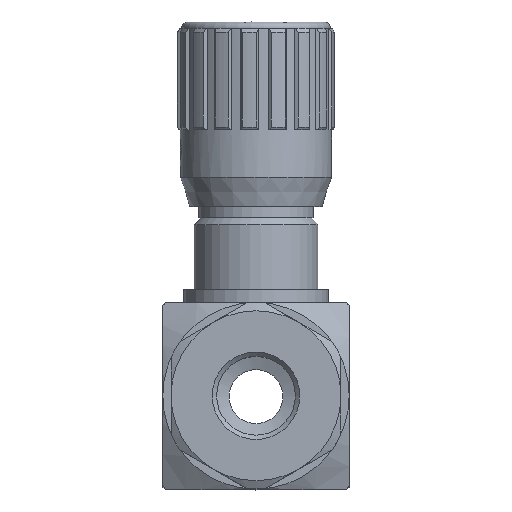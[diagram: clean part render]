
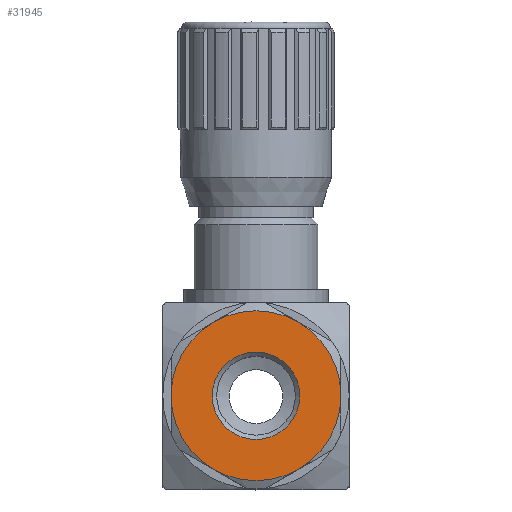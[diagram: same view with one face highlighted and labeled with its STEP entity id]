
A CAD part, top view. The second image highlights one B-rep face of the part: STEP entity #31945.
In plain terms, the highlighted planar face has unit normal (0, 0, 1).
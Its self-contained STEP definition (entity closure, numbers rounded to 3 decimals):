
#426 = ORIENTED_EDGE ( 'NONE', *, *, #13594, .T. ) ;
#453 = EDGE_LOOP ( 'NONE', ( #12377, #426, #28557, #15548, #24080, #14491 ) ) ;
#1048 = CIRCLE ( 'NONE', #31146, 20.5 ) ;
#2996 = CARTESIAN_POINT ( 'NONE',  ( -20.5, 0., 71.25 ) ) ;
#3554 = EDGE_CURVE ( 'NONE', #28560, #23455, #16890, .T. ) ;
#3830 = VERTEX_POINT ( 'NONE', #10437 ) ;
#4820 = DIRECTION ( 'NONE',  ( 0., 0., 1. ) ) ;
#4938 = CARTESIAN_POINT ( 'NONE',  ( 0., 0., 71.25 ) ) ;
#5053 = DIRECTION ( 'NONE',  ( 1., 0., 0. ) ) ;
#5590 = CIRCLE ( 'NONE', #32638, 20.5 ) ;
#6510 = DIRECTION ( 'NONE',  ( 0., 0., 1. ) ) ;
#6844 = CARTESIAN_POINT ( 'NONE',  ( 0., 0., 71.25 ) ) ;
#6953 = DIRECTION ( 'NONE',  ( 1., 0., 0. ) ) ;
#7192 = DIRECTION ( 'NONE',  ( 0., 0., 1. ) ) ;
#7231 = CARTESIAN_POINT ( 'NONE',  ( 0., 0., 71.25 ) ) ;
#7273 = DIRECTION ( 'NONE',  ( 1., 0., 0. ) ) ;
#7579 = AXIS2_PLACEMENT_3D ( 'NONE', #23376, #23262, #23252 ) ;
#8241 = PLANE ( 'NONE',  #29399 ) ;
#8566 = CARTESIAN_POINT ( 'NONE',  ( 0., 0., 71.25 ) ) ;
#8699 = DIRECTION ( 'NONE',  ( 1., 0., 0. ) ) ;
#8826 = DIRECTION ( 'NONE',  ( 0., 0., 1. ) ) ;
#9101 = EDGE_CURVE ( 'NONE', #13235, #10647, #28372, .T. ) ;
#10437 = CARTESIAN_POINT ( 'NONE',  ( 10.25, 17.754, 71.25 ) ) ;
#10647 = VERTEX_POINT ( 'NONE', #14347 ) ;
#12238 = VERTEX_POINT ( 'NONE', #32430 ) ;
#12377 = ORIENTED_EDGE ( 'NONE', *, *, #19775, .T. ) ;
#13235 = VERTEX_POINT ( 'NONE', #2996 ) ;
#13418 = CARTESIAN_POINT ( 'NONE',  ( 0., 0., 71.25 ) ) ;
#13425 = DIRECTION ( 'NONE',  ( 0., 0., 1. ) ) ;
#13503 = DIRECTION ( 'NONE',  ( 1., 0., 0. ) ) ;
#13538 = DIRECTION ( 'NONE',  ( 0., 0., 1. ) ) ;
#13594 = EDGE_CURVE ( 'NONE', #3830, #30518, #1048, .T. ) ;
#14347 = CARTESIAN_POINT ( 'NONE',  ( -10.25, -17.754, 71.25 ) ) ;
#14491 = ORIENTED_EDGE ( 'NONE', *, *, #3554, .T. ) ;
#15548 = ORIENTED_EDGE ( 'NONE', *, *, #9101, .T. ) ;
#16822 = AXIS2_PLACEMENT_3D ( 'NONE', #13418, #13538, #13503 ) ;
#16890 = CIRCLE ( 'NONE', #30231, 20.5 ) ;
#17528 = AXIS2_PLACEMENT_3D ( 'NONE', #6844, #6510, #6953 ) ;
#18291 = EDGE_LOOP ( 'NONE', ( #21268 ) ) ;
#18996 = EDGE_CURVE ( 'NONE', #12238, #12238, #27979, .T. ) ;
#19775 = EDGE_CURVE ( 'NONE', #23455, #3830, #31097, .T. ) ;
#20044 = CARTESIAN_POINT ( 'NONE',  ( 20.5, 0., 71.25 ) ) ;
#21268 = ORIENTED_EDGE ( 'NONE', *, *, #18996, .F. ) ;
#21589 = CARTESIAN_POINT ( 'NONE',  ( 0., 0., 71.25 ) ) ;
#21687 = DIRECTION ( 'NONE',  ( 1., 0., 0. ) ) ;
#21723 = DIRECTION ( 'NONE',  ( 0., 0., 1. ) ) ;
#21816 = FACE_BOUND ( 'NONE', #18291, .T. ) ;
#22389 = CARTESIAN_POINT ( 'NONE',  ( -10.25, 17.754, 71.25 ) ) ;
#22593 = FACE_OUTER_BOUND ( 'NONE', #453, .T. ) ;
#23252 = DIRECTION ( 'NONE',  ( 1., 0., 0. ) ) ;
#23262 = DIRECTION ( 'NONE',  ( 0., 0., 1. ) ) ;
#23376 = CARTESIAN_POINT ( 'NONE',  ( 0., 0., 71.25 ) ) ;
#23455 = VERTEX_POINT ( 'NONE', #20044 ) ;
#24080 = ORIENTED_EDGE ( 'NONE', *, *, #32275, .T. ) ;
#25475 = CARTESIAN_POINT ( 'NONE',  ( 10.25, -17.754, 71.25 ) ) ;
#27006 = EDGE_CURVE ( 'NONE', #30518, #13235, #31043, .T. ) ;
#27979 = CIRCLE ( 'NONE', #7579, 10.55 ) ;
#28372 = CIRCLE ( 'NONE', #30748, 20.5 ) ;
#28557 = ORIENTED_EDGE ( 'NONE', *, *, #27006, .T. ) ;
#28560 = VERTEX_POINT ( 'NONE', #25475 ) ;
#29074 = CARTESIAN_POINT ( 'NONE',  ( 0., 0., 71.25 ) ) ;
#29399 = AXIS2_PLACEMENT_3D ( 'NONE', #8566, #8826, #8699 ) ;
#30006 = DIRECTION ( 'NONE',  ( 1., 0., 0. ) ) ;
#30231 = AXIS2_PLACEMENT_3D ( 'NONE', #7231, #7192, #7273 ) ;
#30518 = VERTEX_POINT ( 'NONE', #22389 ) ;
#30748 = AXIS2_PLACEMENT_3D ( 'NONE', #29074, #13425, #30006 ) ;
#31043 = CIRCLE ( 'NONE', #16822, 20.5 ) ;
#31097 = CIRCLE ( 'NONE', #17528, 20.5 ) ;
#31146 = AXIS2_PLACEMENT_3D ( 'NONE', #4938, #4820, #5053 ) ;
#31945 = ADVANCED_FACE ( 'NONE', ( #21816, #22593 ), #8241, .T. ) ;
#32275 = EDGE_CURVE ( 'NONE', #10647, #28560, #5590, .T. ) ;
#32430 = CARTESIAN_POINT ( 'NONE',  ( 10.55, 0., 71.25 ) ) ;
#32638 = AXIS2_PLACEMENT_3D ( 'NONE', #21589, #21723, #21687 ) ;
